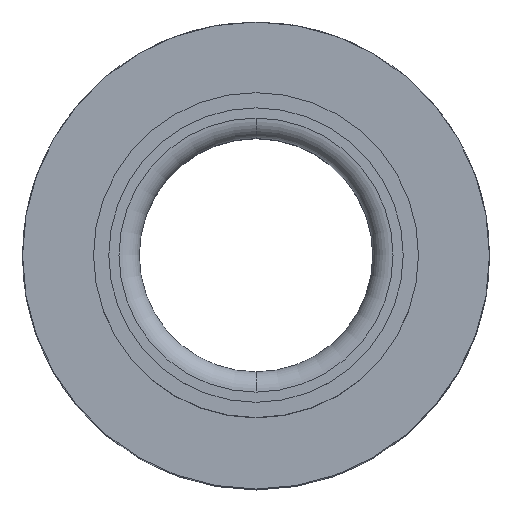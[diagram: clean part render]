
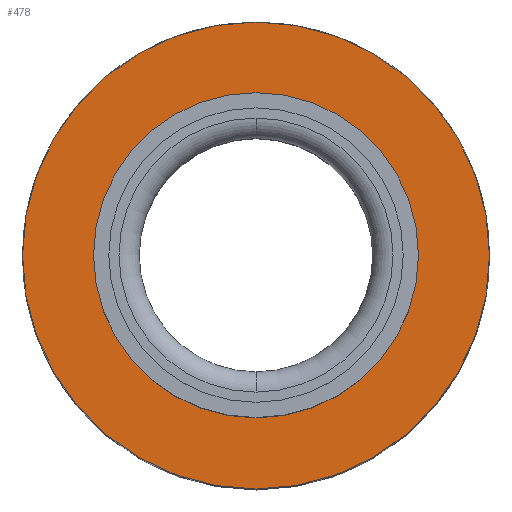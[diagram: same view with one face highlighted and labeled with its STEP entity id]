
A CAD part, top view. The second image highlights one B-rep face of the part: STEP entity #478.
In plain terms, the highlighted planar face has unit normal (0, 0, 1) as drawn and (0, -1, 0) by its records, which use the part's own axes.
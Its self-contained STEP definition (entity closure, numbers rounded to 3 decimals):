
#45 = CIRCLE ( 'NONE', #357, 11.5 ) ;
#99 = CIRCLE ( 'NONE', #379, 11.5 ) ;
#135 = CIRCLE ( 'NONE', #392, 7.25 ) ;
#294 = AXIS2_PLACEMENT_3D ( 'NONE', #2526, #2524, #2523 ) ;
#357 = AXIS2_PLACEMENT_3D ( 'NONE', #1447, #1410, #1408 ) ;
#379 = AXIS2_PLACEMENT_3D ( 'NONE', #4963, #4961, #4960 ) ;
#392 = AXIS2_PLACEMENT_3D ( 'NONE', #5038, #5022, #5021 ) ;
#478 = ADVANCED_FACE ( 'NONE', ( #4277, #4316 ), #3583, .F. ) ;
#937 = AXIS2_PLACEMENT_3D ( 'NONE', #3597, #3291, #3687 ) ;
#1058 = EDGE_CURVE ( 'NONE', #3705, #3478, #135, .T. ) ;
#1080 = EDGE_CURVE ( 'NONE', #3620, #3463, #99, .T. ) ;
#1117 = CIRCLE ( 'NONE', #294, 7.25 ) ;
#1408 = DIRECTION ( 'NONE',  ( 0., 0., -1. ) ) ;
#1410 = DIRECTION ( 'NONE',  ( 0., -1., 0. ) ) ;
#1447 = CARTESIAN_POINT ( 'NONE',  ( 0., -25., 0. ) ) ;
#1841 = ORIENTED_EDGE ( 'NONE', *, *, #4371, .T. ) ;
#1843 = ORIENTED_EDGE ( 'NONE', *, *, #1080, .T. ) ;
#1844 = ORIENTED_EDGE ( 'NONE', *, *, #1058, .F. ) ;
#1846 = ORIENTED_EDGE ( 'NONE', *, *, #4524, .F. ) ;
#2523 = DIRECTION ( 'NONE',  ( 0., 0., -1. ) ) ;
#2524 = DIRECTION ( 'NONE',  ( 0., -1., 0. ) ) ;
#2526 = CARTESIAN_POINT ( 'NONE',  ( 0., -25., 0. ) ) ;
#2585 = CARTESIAN_POINT ( 'NONE',  ( 0., -25., 7.25 ) ) ;
#2633 = CARTESIAN_POINT ( 'NONE',  ( 0., -25., -11.5 ) ) ;
#3291 = DIRECTION ( 'NONE',  ( 0., 1., 0. ) ) ;
#3463 = VERTEX_POINT ( 'NONE', #4856 ) ;
#3478 = VERTEX_POINT ( 'NONE', #4850 ) ;
#3583 = PLANE ( 'NONE',  #937 ) ;
#3597 = CARTESIAN_POINT ( 'NONE',  ( -7.25, -25., 0. ) ) ;
#3620 = VERTEX_POINT ( 'NONE', #2633 ) ;
#3687 = DIRECTION ( 'NONE',  ( 0., 0., 1. ) ) ;
#3705 = VERTEX_POINT ( 'NONE', #2585 ) ;
#3970 = EDGE_LOOP ( 'NONE', ( #1843, #1841 ) ) ;
#4132 = EDGE_LOOP ( 'NONE', ( #1846, #1844 ) ) ;
#4277 = FACE_BOUND ( 'NONE', #4132, .T. ) ;
#4316 = FACE_OUTER_BOUND ( 'NONE', #3970, .T. ) ;
#4371 = EDGE_CURVE ( 'NONE', #3463, #3620, #45, .T. ) ;
#4524 = EDGE_CURVE ( 'NONE', #3478, #3705, #1117, .T. ) ;
#4850 = CARTESIAN_POINT ( 'NONE',  ( 0., -25., -7.25 ) ) ;
#4856 = CARTESIAN_POINT ( 'NONE',  ( 0., -25., 11.5 ) ) ;
#4960 = DIRECTION ( 'NONE',  ( 0., 0., -1. ) ) ;
#4961 = DIRECTION ( 'NONE',  ( 0., -1., 0. ) ) ;
#4963 = CARTESIAN_POINT ( 'NONE',  ( 0., -25., 0. ) ) ;
#5021 = DIRECTION ( 'NONE',  ( 0., 0., -1. ) ) ;
#5022 = DIRECTION ( 'NONE',  ( 0., -1., 0. ) ) ;
#5038 = CARTESIAN_POINT ( 'NONE',  ( 0., -25., 0. ) ) ;
